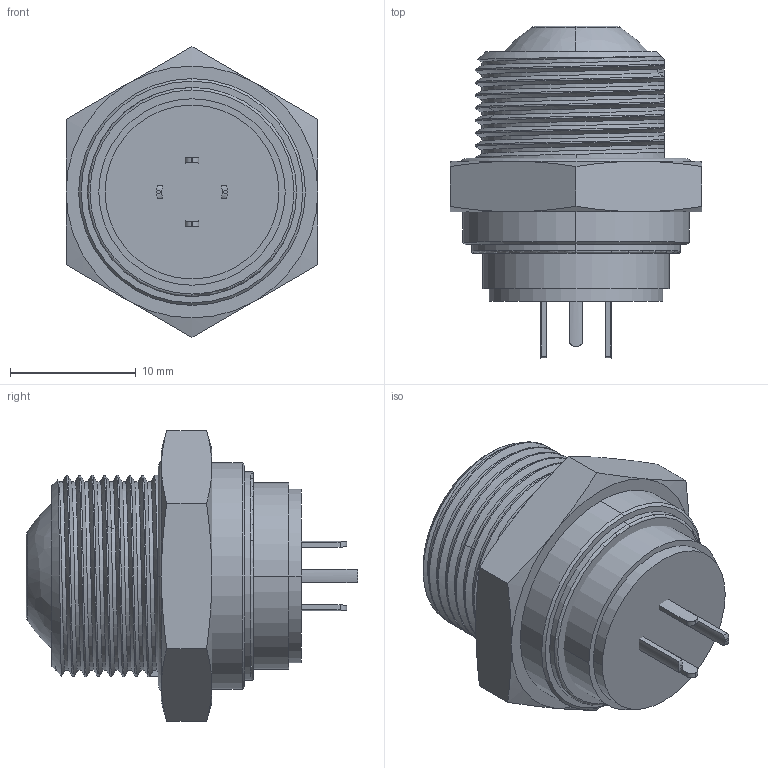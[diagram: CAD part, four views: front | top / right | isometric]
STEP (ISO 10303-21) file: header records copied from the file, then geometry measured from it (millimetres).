
FILE_DESCRIPTION((''),'2;1');
FILE_NAME('IZDR3P4__LOY','2014-12-22T',('brevel'),(''),'PRO/ENGINEER BY PARAMETRIC TECHNOLOGY CORPORATION, 2013410','PRO/ENGINEER BY PARAMETRIC TECHNOLOGY CORPORATION, 2013410','');
FILE_SCHEMA(('CONFIG_CONTROL_DESIGN'));
Length unit declared in the file: millimetre
Products named in the file (1): IZDR3P4__LOY
Bounding box: 20 x 26.35 x 23.09 mm (x, y, z)
Surface area: 3328.4 mm2 (no closed solid volume)
Topology: 0 solids, 10 shells, 123 faces, 360 edges, 241 vertices
Faces by surface type: cylinder 44, plane 31, bspline 23, cone 15, torus 6, sphere 4
Entity records: 7901 total; most frequent: CARTESIAN_POINT 4955, ORIENTED_EDGE 666, DIRECTION 493, EDGE_CURVE 357, VERTEX_POINT 241, AXIS2_PLACEMENT_3D 197, B_SPLINE_CURVE_WITH_KNOTS 161, EDGE_LOOP 123
